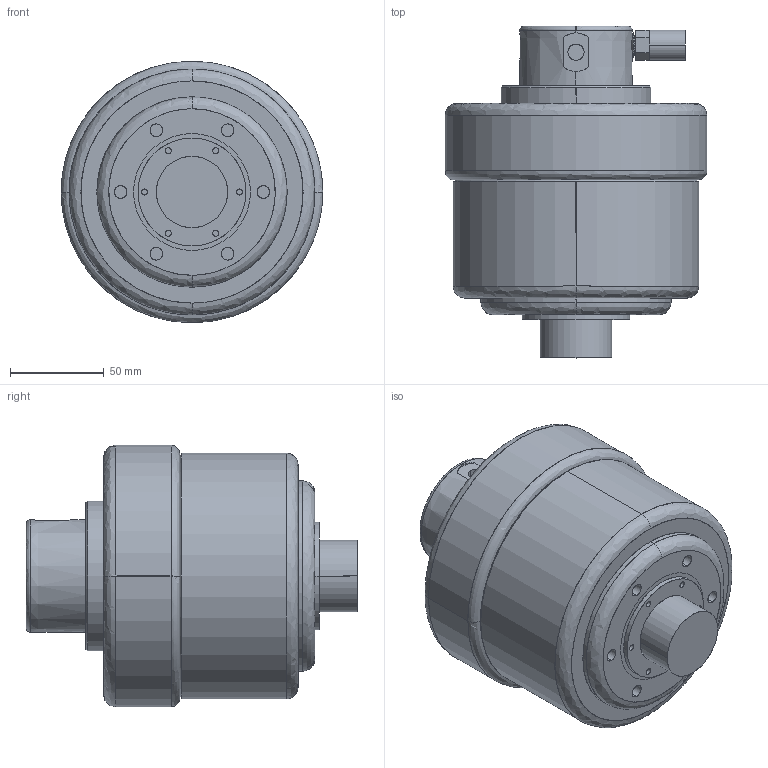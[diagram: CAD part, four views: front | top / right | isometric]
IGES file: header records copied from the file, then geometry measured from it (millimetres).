
Start section: SolidWorks IGES file using analytic representation for surfaces
Global section: file name: S:\Engineer\SW Files\R and D\Karen\DBU030.IGS; native system: SolidWorks 2012; preprocessor: SolidWorks 2012; author: karen.bodily; date: 140514.155551; units: inch
Bounding box: 139.7 x 177.22 x 139.7 mm (x, y, z)
Surface area: 92451.7 mm2 (no closed solid volume)
Topology: 0 solids, 0 shells, 162 faces, 4275 edges, 4275 vertices
Faces by surface type: revolution 98, bspline 64
